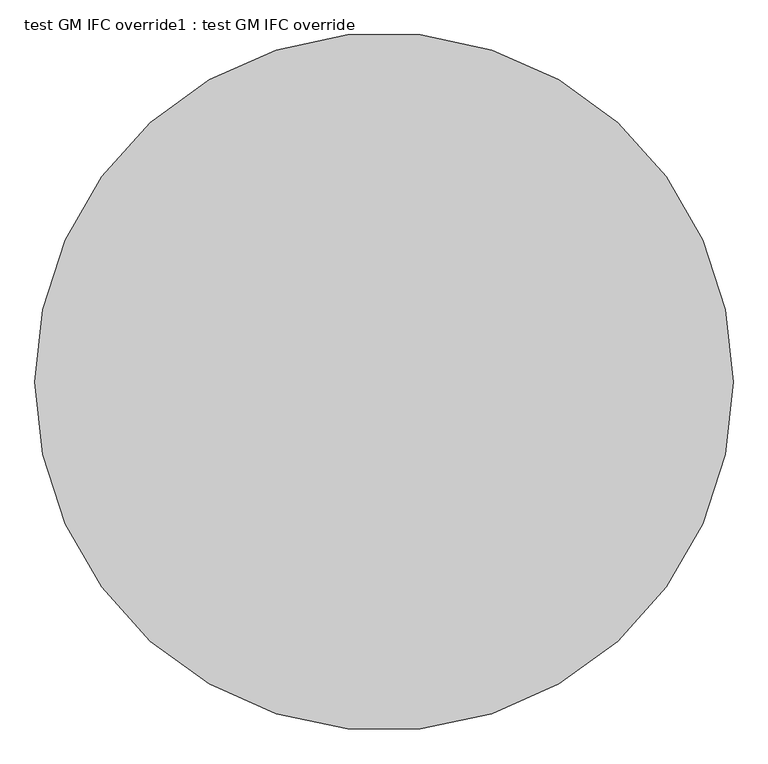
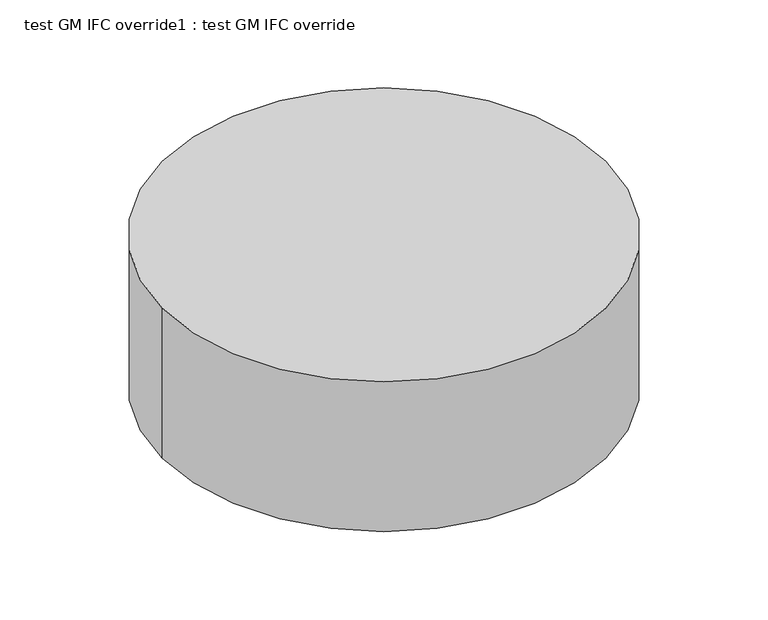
"""IFC4 building model written with IfcOpenShell, lengths in millimetres: proxy geometry, test GM IFC override1 : test GM IFC override."""

from ifc_helpers import new_model, si_unit, point, frame_2d, origin, origin_with_axes, place, context, project, spatial, circle_curve, trimmed, segment, composite_curve, outline, extrude, source, transform, mapped, element, save


def test_gm_ifc_override1_test_gm_ifc_override_ad24f1da(model_context):
    return source(origin(), model_context, "Body", "SweptSolid", [
        extrude(outline(composite_curve([segment(trimmed(circle_curve(frame_2d((-18701.9354839, -1739.1397849)), 1400.0), [point((-20101.9354839, -1739.1397849))], [point((-17301.9354839, -1739.1397849))], False, "CARTESIAN"), True, "CONTINUOUS"), segment(trimmed(circle_curve(frame_2d((-18701.9354839, -1739.1397849)), 1400.0), [point((-17301.9354839, -1739.1397849))], [point((-20101.9354839, -1739.1397849))], False, "CARTESIAN"), True, "CONTINUOUS")], self_intersect=False)), origin_with_axes(), (0.0, 0.0, 1.0), 1000.0),
    ])


if __name__ == "__main__":
    model = new_model("IFC4")
    model_context = context("Model", 3, world=origin())
    ifc_project = project(units=[si_unit("LENGTHUNIT", "METRE", prefix="MILLI")], contexts=[model_context])
    site = spatial("IfcSite", under=ifc_project)
    building = spatial("IfcBuilding", under=site)
    placement = place(None, origin())
    test_gm_ifc_override1_test_gm_ifc_override_shape = test_gm_ifc_override1_test_gm_ifc_override_ad24f1da(model_context)
    element("IfcBuildingElementProxy", 1, Name="test GM IFC override1 : test GM IFC override", ObjectType="test GM IFC override1 : test GM IFC override", at=placement, inside=building, context=model_context, shape_type="MappedRepresentation", body=[
        mapped(test_gm_ifc_override1_test_gm_ifc_override_shape, transform((0.0, 0.0, 0.0), x_axis=(1.0, 0.0, 0.0), y_axis=(0.0, 1.0, 0.0), z_axis=(0.0, 0.0, 1.0))),
    ])
    save(model, "model.ifc")
